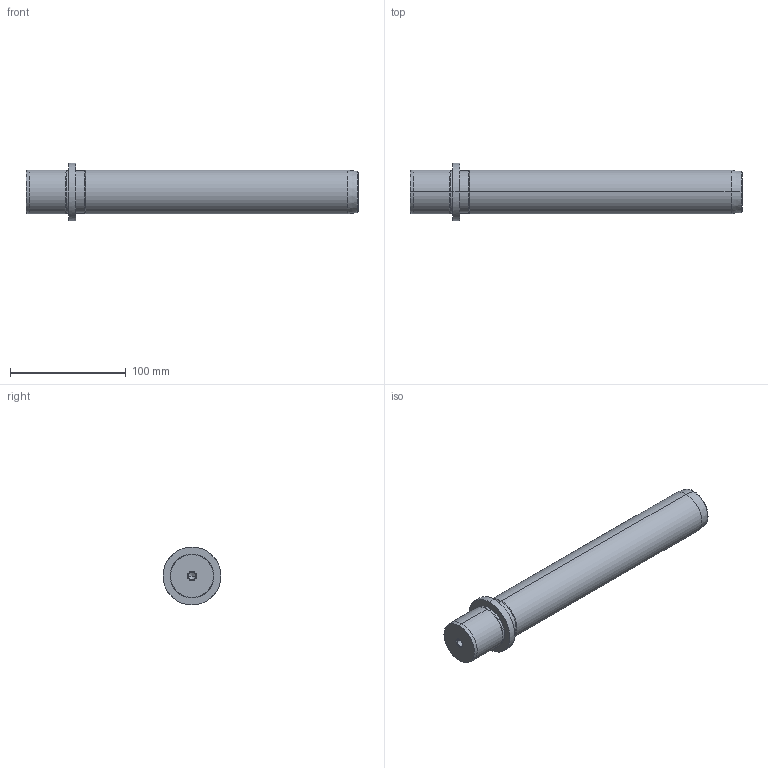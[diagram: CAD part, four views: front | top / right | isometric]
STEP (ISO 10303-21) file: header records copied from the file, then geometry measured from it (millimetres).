
FILE_DESCRIPTION(('CATIA V5 STEP Exchange'),'2;1');
FILE_NAME('C:\Users\Utente\Desktop\IO LAVORO\3D X SITO CF\X SITO\718\718-38x250.stp','2021-01-02T12:54:28+00:00',('none'),('none'),'CATIA Version 5 Release 20 GA (IN-10)','CATIA V5 STEP AP203','none');
FILE_SCHEMA(('CONFIG_CONTROL_DESIGN'));
Length unit declared in the file: millimetre
Products named in the file (1): 718-38x250
Bounding box: 287 x 50 x 50 mm (x, y, z)
Volume: 327286.3 mm3; surface area: 39269.9 mm2
Topology: 1 solids, 1 shells, 36 faces, 100 edges, 66 vertices
Faces by surface type: cone 16, cylinder 14, plane 4, torus 2
Entity records: 1291 total; most frequent: CARTESIAN_POINT 362, ORIENTED_EDGE 192, DIRECTION 157, EDGE_CURVE 96, AXIS2_PLACEMENT_3D 92, VERTEX_POINT 66, CIRCLE 55, EDGE_LOOP 40
